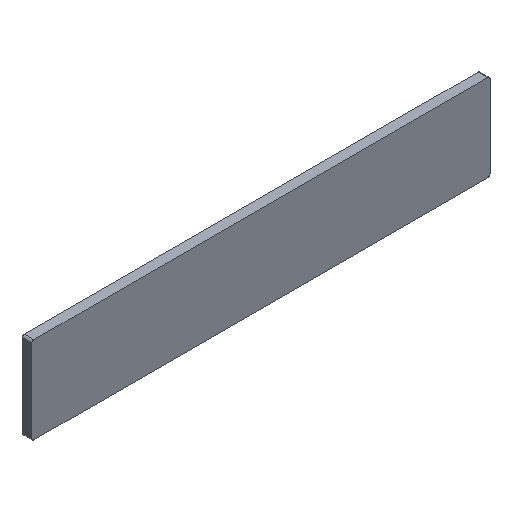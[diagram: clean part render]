
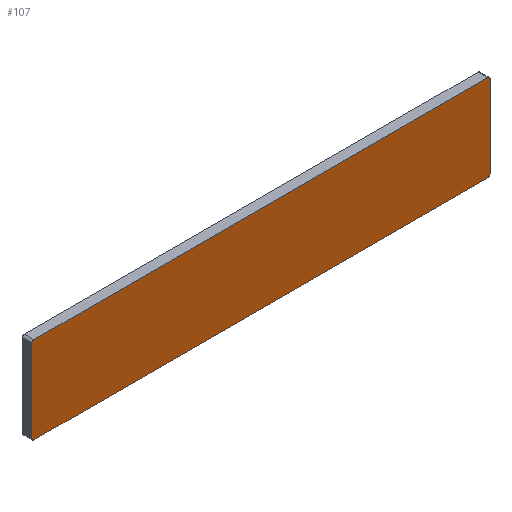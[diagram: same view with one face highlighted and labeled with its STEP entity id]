
A CAD part, isometric view. The second image highlights one B-rep face of the part: STEP entity #107.
In plain terms, the highlighted planar face has unit normal (0, -1, 0).
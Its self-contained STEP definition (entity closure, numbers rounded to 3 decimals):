
#107 = ADVANCED_FACE( '', ( #177 ), #178, .F. );
#177 = FACE_OUTER_BOUND( '', #249, .T. );
#178 = PLANE( '', #250 );
#249 = EDGE_LOOP( '', ( #494, #495, #496, #497, #498, #499, #500, #501 ) );
#250 = AXIS2_PLACEMENT_3D( '', #502, #503, #504 );
#494 = ORIENTED_EDGE( '', *, *, #584, .F. );
#495 = ORIENTED_EDGE( '', *, *, #606, .F. );
#496 = ORIENTED_EDGE( '', *, *, #603, .F. );
#497 = ORIENTED_EDGE( '', *, *, #600, .F. );
#498 = ORIENTED_EDGE( '', *, *, #597, .F. );
#499 = ORIENTED_EDGE( '', *, *, #594, .F. );
#500 = ORIENTED_EDGE( '', *, *, #591, .F. );
#501 = ORIENTED_EDGE( '', *, *, #588, .F. );
#502 = CARTESIAN_POINT( '', ( 0., -1.6, 0. ) );
#503 = DIRECTION( '', ( 0., 1., 0. ) );
#504 = DIRECTION( '', ( 0., 0., 1. ) );
#584 = EDGE_CURVE( '', #708, #709, #710, .T. );
#588 = EDGE_CURVE( '', #709, #716, #717, .T. );
#591 = EDGE_CURVE( '', #716, #721, #722, .T. );
#594 = EDGE_CURVE( '', #721, #726, #727, .T. );
#597 = EDGE_CURVE( '', #726, #731, #732, .T. );
#600 = EDGE_CURVE( '', #731, #736, #737, .T. );
#603 = EDGE_CURVE( '', #736, #741, #742, .T. );
#606 = EDGE_CURVE( '', #741, #708, #746, .T. );
#708 = VERTEX_POINT( '', #896 );
#709 = VERTEX_POINT( '', #897 );
#710 = CIRCLE( '', #898, 0.75 );
#716 = VERTEX_POINT( '', #906 );
#717 = LINE( '', #907, #908 );
#721 = VERTEX_POINT( '', #914 );
#722 = CIRCLE( '', #915, 0.75 );
#726 = VERTEX_POINT( '', #920 );
#727 = LINE( '', #921, #922 );
#731 = VERTEX_POINT( '', #928 );
#732 = CIRCLE( '', #929, 0.75 );
#736 = VERTEX_POINT( '', #934 );
#737 = LINE( '', #935, #936 );
#741 = VERTEX_POINT( '', #942 );
#742 = CIRCLE( '', #943, 0.75 );
#746 = LINE( '', #948, #949 );
#896 = CARTESIAN_POINT( '', ( -75.75, -1.6, 13.6 ) );
#897 = CARTESIAN_POINT( '', ( -75., -1.6, 14.35 ) );
#898 = AXIS2_PLACEMENT_3D( '', #1036, #1037, #1038 );
#906 = CARTESIAN_POINT( '', ( 75., -1.6, 14.35 ) );
#907 = CARTESIAN_POINT( '', ( -75., -1.6, 14.35 ) );
#908 = VECTOR( '', #1044, 1. );
#914 = CARTESIAN_POINT( '', ( 75.75, -1.6, 13.6 ) );
#915 = AXIS2_PLACEMENT_3D( '', #1047, #1048, #1049 );
#920 = CARTESIAN_POINT( '', ( 75.75, -1.6, -13.6 ) );
#921 = CARTESIAN_POINT( '', ( 75.75, -1.6, 13.6 ) );
#922 = VECTOR( '', #1054, 1. );
#928 = CARTESIAN_POINT( '', ( 75., -1.6, -14.35 ) );
#929 = AXIS2_PLACEMENT_3D( '', #1057, #1058, #1059 );
#934 = CARTESIAN_POINT( '', ( -75., -1.6, -14.35 ) );
#935 = CARTESIAN_POINT( '', ( 75., -1.6, -14.35 ) );
#936 = VECTOR( '', #1064, 1. );
#942 = CARTESIAN_POINT( '', ( -75.75, -1.6, -13.6 ) );
#943 = AXIS2_PLACEMENT_3D( '', #1067, #1068, #1069 );
#948 = CARTESIAN_POINT( '', ( -75.75, -1.6, -13.6 ) );
#949 = VECTOR( '', #1074, 1. );
#1036 = CARTESIAN_POINT( '', ( -75., -1.6, 13.6 ) );
#1037 = DIRECTION( '', ( 0., 1., 0. ) );
#1038 = DIRECTION( '', ( -1., 0., 0. ) );
#1044 = DIRECTION( '', ( 1., 0., 0. ) );
#1047 = CARTESIAN_POINT( '', ( 75., -1.6, 13.6 ) );
#1048 = DIRECTION( '', ( 0., 1., 0. ) );
#1049 = DIRECTION( '', ( 0., 0., 1. ) );
#1054 = DIRECTION( '', ( 0., 0., -1. ) );
#1057 = CARTESIAN_POINT( '', ( 75., -1.6, -13.6 ) );
#1058 = DIRECTION( '', ( 0., 1., 0. ) );
#1059 = DIRECTION( '', ( 1., 0., 0. ) );
#1064 = DIRECTION( '', ( -1., 0., 0. ) );
#1067 = CARTESIAN_POINT( '', ( -75., -1.6, -13.6 ) );
#1068 = DIRECTION( '', ( 0., 1., 0. ) );
#1069 = DIRECTION( '', ( 0., 0., -1. ) );
#1074 = DIRECTION( '', ( 0., 0., 1. ) );
